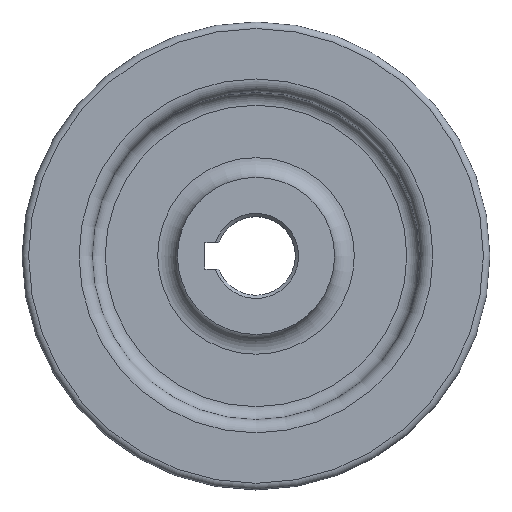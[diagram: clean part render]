
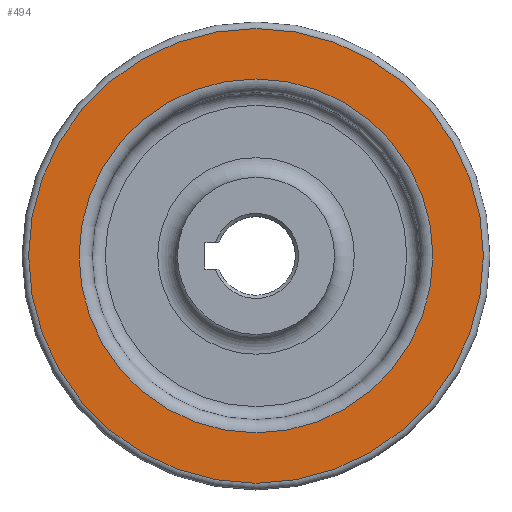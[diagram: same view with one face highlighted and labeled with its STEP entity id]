
A CAD part, top view. The second image highlights one B-rep face of the part: STEP entity #494.
In plain terms, the highlighted planar face has unit normal (0, 0, 1).
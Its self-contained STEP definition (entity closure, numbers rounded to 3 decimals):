
#38=FACE_BOUND('',#131,.T.);
#79=PLANE('',#568);
#94=FACE_OUTER_BOUND('',#130,.T.);
#130=EDGE_LOOP('',(#378));
#131=EDGE_LOOP('',(#379));
#168=CIRCLE('',#566,27.);
#170=CIRCLE('',#569,34.7);
#230=VERTEX_POINT('',#881);
#231=VERTEX_POINT('',#885);
#286=EDGE_CURVE('',#230,#230,#168,.T.);
#288=EDGE_CURVE('',#231,#231,#170,.T.);
#378=ORIENTED_EDGE('',*,*,#288,.F.);
#379=ORIENTED_EDGE('',*,*,#286,.F.);
#494=ADVANCED_FACE('',(#94,#38),#79,.T.);
#566=AXIS2_PLACEMENT_3D('',#882,#690,#691);
#568=AXIS2_PLACEMENT_3D('',#884,#694,#695);
#569=AXIS2_PLACEMENT_3D('',#886,#696,#697);
#690=DIRECTION('center_axis',(0.,0.,1.));
#691=DIRECTION('ref_axis',(-1.,0.,0.));
#694=DIRECTION('center_axis',(0.,0.,1.));
#695=DIRECTION('ref_axis',(1.,0.,0.));
#696=DIRECTION('center_axis',(0.,0.,-1.));
#697=DIRECTION('ref_axis',(0.,-1.,0.));
#881=CARTESIAN_POINT('',(27.,0.,16.));
#882=CARTESIAN_POINT('Origin',(0.,0.,16.));
#884=CARTESIAN_POINT('Origin',(0.,17.85,16.));
#885=CARTESIAN_POINT('',(34.7,0.,16.));
#886=CARTESIAN_POINT('Origin',(0.,0.,16.));
